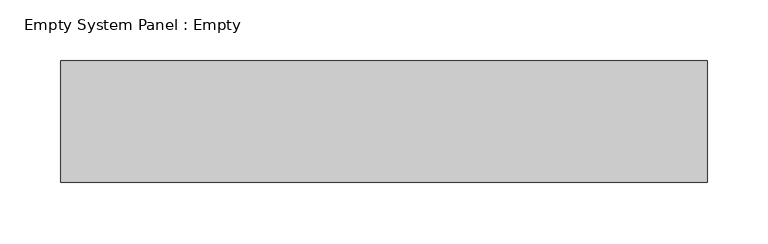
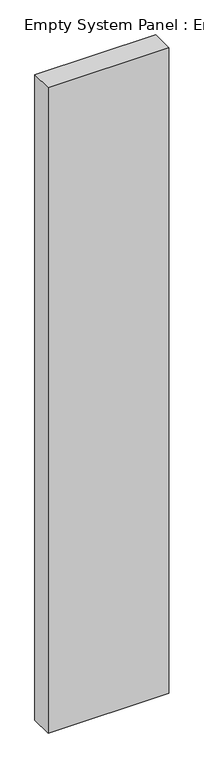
"""IFC4 building model written with IfcOpenShell, lengths in millimetres: plate geometry, Empty System Panel : Empty."""

from ifc_helpers import new_model, si_unit, origin, origin_with_axes, place, context, project, spatial, polyline, outline, extrude, source, transform, mapped, element, save


def empty_system_panel_empty_f8120e01(model_context):
    return source(origin(), model_context, "Body", "SweptSolid", [
        extrude(outline(polyline([(266.0, -50.0), (-266.0, -50.0), (-266.0, 50.0), (266.0, 50.0), (266.0, -50.0)])), origin_with_axes(), (0.0, 0.0, 1.0), 3000.0),
    ])


if __name__ == "__main__":
    model = new_model("IFC4")
    model_context = context("Model", 3, world=origin())
    ifc_project = project(units=[si_unit("LENGTHUNIT", "METRE", prefix="MILLI")], contexts=[model_context])
    site = spatial("IfcSite", under=ifc_project)
    building = spatial("IfcBuilding", under=site)
    placement = place(None, origin())
    empty_system_panel_empty_shape = empty_system_panel_empty_f8120e01(model_context)
    element("IfcPlate", 1, ObjectType="Empty System Panel : Empty", at=placement, inside=building, context=model_context, shape_type="MappedRepresentation", body=[
        mapped(empty_system_panel_empty_shape, transform((0.0, 0.0, 0.0), x_axis=(1.0, 0.0, 0.0), y_axis=(0.0, 1.0, 0.0), z_axis=(0.0, 0.0, 1.0))),
    ])
    save(model, "model.ifc")
